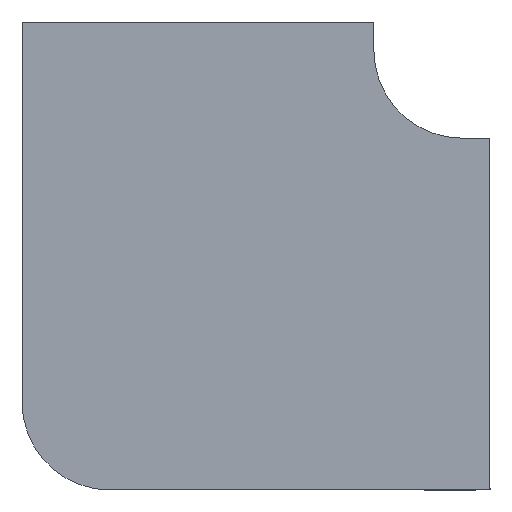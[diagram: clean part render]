
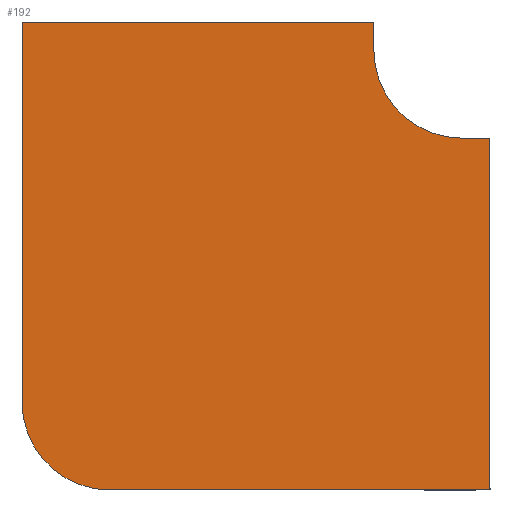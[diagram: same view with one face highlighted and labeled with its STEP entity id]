
A CAD part, front view. The second image highlights one B-rep face of the part: STEP entity #192.
In plain terms, the highlighted planar face has unit normal (0, -1, 0).
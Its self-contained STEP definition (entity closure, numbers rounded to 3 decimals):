
#13 = LINE ( 'NONE', #1421, #1209 ) ;
#14 = CARTESIAN_POINT ( 'NONE',  ( -125., 0., 40. ) ) ;
#38 = EDGE_CURVE ( 'NONE', #820, #267, #1561, .T. ) ;
#48 = CARTESIAN_POINT ( 'NONE',  ( 40., 0., -625. ) ) ;
#77 = ORIENTED_EDGE ( 'NONE', *, *, #1022, .F. ) ;
#91 = EDGE_CURVE ( 'NONE', #215, #1134, #105, .T. ) ;
#95 = DIRECTION ( 'NONE',  ( 0., 0., 1. ) ) ;
#105 = LINE ( 'NONE', #1251, #1568 ) ;
#107 = AXIS2_PLACEMENT_3D ( 'NONE', #1119, #378, #260 ) ;
#174 = CARTESIAN_POINT ( 'NONE',  ( 40., 0., -125. ) ) ;
#192 = ADVANCED_FACE ( 'NONE', ( #1309 ), #1195, .T. ) ;
#200 = DIRECTION ( 'NONE',  ( 0., 0., -1. ) ) ;
#210 = DIRECTION ( 'NONE',  ( 0., 0., -1. ) ) ;
#215 = VERTEX_POINT ( 'NONE', #1326 ) ;
#260 = DIRECTION ( 'NONE',  ( 0., 0., -1. ) ) ;
#267 = VERTEX_POINT ( 'NONE', #174 ) ;
#330 = CARTESIAN_POINT ( 'NONE',  ( -125., 0., 0. ) ) ;
#344 = VERTEX_POINT ( 'NONE', #14 ) ;
#378 = DIRECTION ( 'NONE',  ( 0., -1., 0. ) ) ;
#380 = DIRECTION ( 'NONE',  ( 1., 0., 0. ) ) ;
#475 = VECTOR ( 'NONE', #210, 1000. ) ;
#481 = CARTESIAN_POINT ( 'NONE',  ( 40., 0., -125. ) ) ;
#504 = ORIENTED_EDGE ( 'NONE', *, *, #38, .F. ) ;
#532 = CARTESIAN_POINT ( 'NONE',  ( 0., 0., 0. ) ) ;
#567 = EDGE_CURVE ( 'NONE', #1292, #820, #1491, .T. ) ;
#575 = DIRECTION ( 'NONE',  ( 0., 0., 1. ) ) ;
#623 = DIRECTION ( 'NONE',  ( -1., 0., 0. ) ) ;
#634 = EDGE_CURVE ( 'NONE', #1134, #344, #13, .T. ) ;
#714 = LINE ( 'NONE', #1619, #1299 ) ;
#820 = VERTEX_POINT ( 'NONE', #1359 ) ;
#837 = LINE ( 'NONE', #481, #475 ) ;
#841 = VECTOR ( 'NONE', #623, 1000. ) ;
#858 = DIRECTION ( 'NONE',  ( 0., 1., 0. ) ) ;
#861 = CARTESIAN_POINT ( 'NONE',  ( -500., 0., -625. ) ) ;
#897 = ORIENTED_EDGE ( 'NONE', *, *, #567, .F. ) ;
#912 = DIRECTION ( 'NONE',  ( 0., -1., 0. ) ) ;
#921 = AXIS2_PLACEMENT_3D ( 'NONE', #1640, #858, #575 ) ;
#952 = ORIENTED_EDGE ( 'NONE', *, *, #1672, .F. ) ;
#1022 = EDGE_CURVE ( 'NONE', #1581, #1606, #1204, .T. ) ;
#1044 = ORIENTED_EDGE ( 'NONE', *, *, #634, .F. ) ;
#1119 = CARTESIAN_POINT ( 'NONE',  ( 0., 0., 0. ) ) ;
#1134 = VERTEX_POINT ( 'NONE', #1398 ) ;
#1195 = PLANE ( 'NONE',  #1201 ) ;
#1201 = AXIS2_PLACEMENT_3D ( 'NONE', #532, #912, #1575 ) ;
#1204 = LINE ( 'NONE', #48, #841 ) ;
#1205 = ORIENTED_EDGE ( 'NONE', *, *, #1311, .F. ) ;
#1207 = CARTESIAN_POINT ( 'NONE',  ( 40., 0., -625. ) ) ;
#1209 = VECTOR ( 'NONE', #1346, 1000. ) ;
#1235 = EDGE_CURVE ( 'NONE', #344, #1292, #714, .T. ) ;
#1251 = CARTESIAN_POINT ( 'NONE',  ( -625., 0., -500. ) ) ;
#1292 = VERTEX_POINT ( 'NONE', #330 ) ;
#1299 = VECTOR ( 'NONE', #200, 1000. ) ;
#1309 = FACE_OUTER_BOUND ( 'NONE', #1533, .T. ) ;
#1311 = EDGE_CURVE ( 'NONE', #1606, #215, #1655, .T. ) ;
#1326 = CARTESIAN_POINT ( 'NONE',  ( -625., 0., -500. ) ) ;
#1338 = VECTOR ( 'NONE', #380, 1000. ) ;
#1346 = DIRECTION ( 'NONE',  ( 1., 0., 0. ) ) ;
#1359 = CARTESIAN_POINT ( 'NONE',  ( 0., 0., -125. ) ) ;
#1398 = CARTESIAN_POINT ( 'NONE',  ( -625., 0., 40. ) ) ;
#1407 = CARTESIAN_POINT ( 'NONE',  ( 0., 0., -125. ) ) ;
#1421 = CARTESIAN_POINT ( 'NONE',  ( -625., 0., 40. ) ) ;
#1482 = ORIENTED_EDGE ( 'NONE', *, *, #91, .F. ) ;
#1491 = CIRCLE ( 'NONE', #107, 125. ) ;
#1533 = EDGE_LOOP ( 'NONE', ( #1044, #1482, #1205, #77, #952, #504, #897, #1540 ) ) ;
#1540 = ORIENTED_EDGE ( 'NONE', *, *, #1235, .F. ) ;
#1561 = LINE ( 'NONE', #1407, #1338 ) ;
#1568 = VECTOR ( 'NONE', #95, 1000. ) ;
#1575 = DIRECTION ( 'NONE',  ( 0., 0., -1. ) ) ;
#1581 = VERTEX_POINT ( 'NONE', #1207 ) ;
#1606 = VERTEX_POINT ( 'NONE', #861 ) ;
#1619 = CARTESIAN_POINT ( 'NONE',  ( -125., 0., 40. ) ) ;
#1640 = CARTESIAN_POINT ( 'NONE',  ( -500., 0., -500. ) ) ;
#1655 = CIRCLE ( 'NONE', #921, 125. ) ;
#1672 = EDGE_CURVE ( 'NONE', #267, #1581, #837, .T. ) ;
